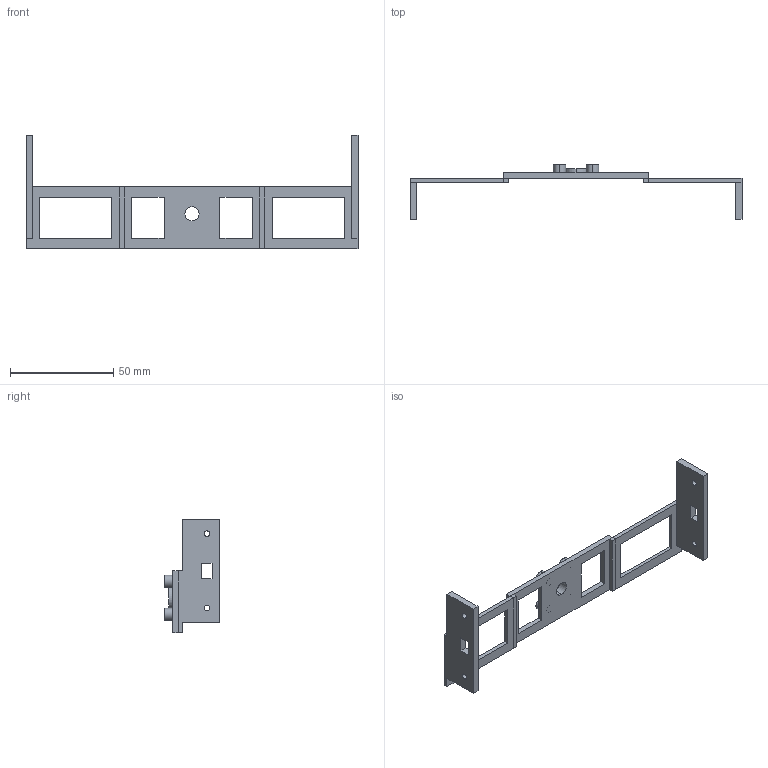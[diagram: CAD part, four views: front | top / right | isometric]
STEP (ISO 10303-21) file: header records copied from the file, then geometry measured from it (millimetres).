
FILE_DESCRIPTION(('Open CASCADE Model'),'2;1');
FILE_NAME('adaptive-linkage-support.step','2026-11-14T14:31:49',( 'Author'),('Open CASCADE'),'Open CASCADE STEP processor 8.0', 'Open CASCADE 8.0','Unknown');
FILE_SCHEMA(('AP242_MANAGED_MODEL_BASED_3D_ENGINEERING_MIM_LF {1 0 10303 442 1 1 4 }' ));
Length unit declared in the file: millimetre
Products named in the file (1): Adaptive Linkage Support
Bounding box: 161 x 26.5 x 55 mm (x, y, z)
Volume: 12609.5 mm3; surface area: 12976.4 mm2
Topology: 3 solids, 3 shells, 93 faces, 232 edges, 154 vertices
Faces by surface type: plane 65, cylinder 28
Entity records: 5874 total; most frequent: CARTESIAN_POINT 1028, DIRECTION 926, LINE 584, VECTOR 584, ORIENTED_EDGE 464, PCURVE 464, DEFINITIONAL_REPRESENTATION 464, EDGE_CURVE 232
